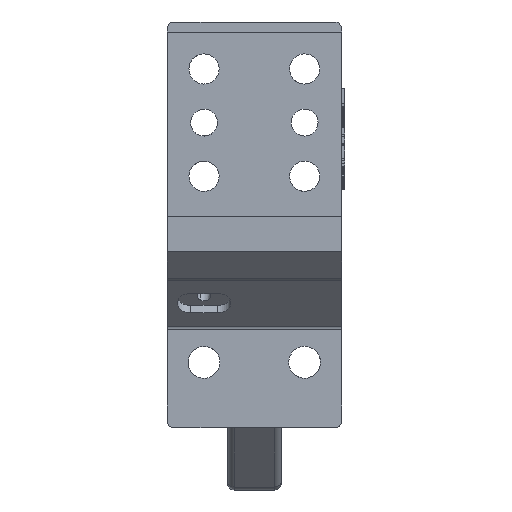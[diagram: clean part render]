
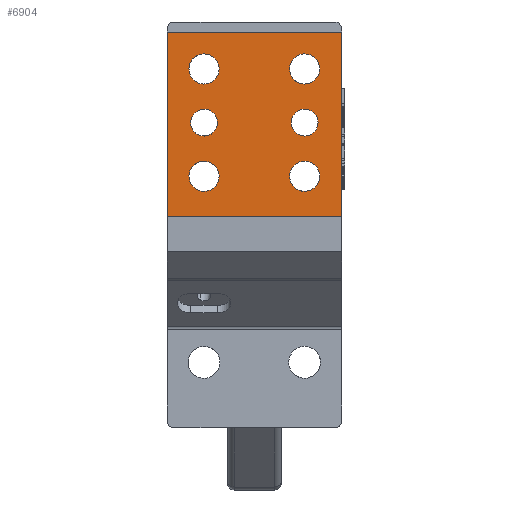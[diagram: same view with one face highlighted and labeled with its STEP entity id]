
A CAD part, left-side view. The second image highlights one B-rep face of the part: STEP entity #6904.
In plain terms, the highlighted planar face has unit normal (-1, 0, 0).
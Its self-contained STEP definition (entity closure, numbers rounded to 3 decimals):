
#225=CARTESIAN_POINT('Vertex',(-41.94,-26.,98.5)) ;
#228=CARTESIAN_POINT('Line Origine',(-41.94,-26.,71.)) ;
#232=CARTESIAN_POINT('Vertex',(-41.94,-26.,43.5)) ;
#6758=CARTESIAN_POINT('Vertex',(-41.94,26.,98.5)) ;
#6761=CARTESIAN_POINT('Line Origine',(-41.94,0.,98.5)) ;
#6773=CARTESIAN_POINT('Axis2P3D Location',(-41.94,0.,43.5)) ;
#6778=CARTESIAN_POINT('Line Origine',(-41.94,26.,71.)) ;
#6782=CARTESIAN_POINT('Vertex',(-41.94,26.,43.5)) ;
#6785=CARTESIAN_POINT('Line Origine',(-41.94,0.,43.5)) ;
#6796=CARTESIAN_POINT('Axis2P3D Location',(-41.94,-15.,55.5)) ;
#6800=CARTESIAN_POINT('Vertex',(-41.94,-18.949,57.657)) ;
#6802=CARTESIAN_POINT('Vertex',(-41.94,-11.051,53.343)) ;
#6805=CARTESIAN_POINT('Axis2P3D Location',(-41.94,-15.,55.5)) ;
#6814=CARTESIAN_POINT('Axis2P3D Location',(-41.94,15.,55.5)) ;
#6818=CARTESIAN_POINT('Vertex',(-41.94,18.949,53.343)) ;
#6820=CARTESIAN_POINT('Vertex',(-41.94,11.051,57.657)) ;
#6823=CARTESIAN_POINT('Axis2P3D Location',(-41.94,15.,55.5)) ;
#6832=CARTESIAN_POINT('Axis2P3D Location',(-41.94,-15.,87.5)) ;
#6836=CARTESIAN_POINT('Vertex',(-41.94,-18.949,89.657)) ;
#6838=CARTESIAN_POINT('Vertex',(-41.94,-11.051,85.343)) ;
#6841=CARTESIAN_POINT('Axis2P3D Location',(-41.94,-15.,87.5)) ;
#6850=CARTESIAN_POINT('Axis2P3D Location',(-41.94,15.,87.5)) ;
#6854=CARTESIAN_POINT('Vertex',(-41.94,18.949,85.343)) ;
#6856=CARTESIAN_POINT('Vertex',(-41.94,11.051,89.657)) ;
#6859=CARTESIAN_POINT('Axis2P3D Location',(-41.94,15.,87.5)) ;
#6868=CARTESIAN_POINT('Axis2P3D Location',(-41.94,-15.,71.5)) ;
#6872=CARTESIAN_POINT('Vertex',(-41.94,-18.51,69.582)) ;
#6874=CARTESIAN_POINT('Vertex',(-41.94,-11.49,73.418)) ;
#6877=CARTESIAN_POINT('Axis2P3D Location',(-41.94,-15.,71.5)) ;
#6886=CARTESIAN_POINT('Axis2P3D Location',(-41.94,15.,71.5)) ;
#6890=CARTESIAN_POINT('Vertex',(-41.94,11.49,69.582)) ;
#6892=CARTESIAN_POINT('Vertex',(-41.94,18.51,73.418)) ;
#6895=CARTESIAN_POINT('Axis2P3D Location',(-41.94,15.,71.5)) ;
#229=DIRECTION('Vector Direction',(0.,0.,1.)) ;
#6762=DIRECTION('Vector Direction',(0.,1.,0.)) ;
#6774=DIRECTION('Axis2P3D Direction',(-1.,0.,0.)) ;
#6775=DIRECTION('Axis2P3D XDirection',(0.,0.,1.)) ;
#6779=DIRECTION('Vector Direction',(0.,0.,1.)) ;
#6786=DIRECTION('Vector Direction',(0.,1.,0.)) ;
#6797=DIRECTION('Axis2P3D Direction',(-1.,0.,0.)) ;
#6806=DIRECTION('Axis2P3D Direction',(-1.,0.,0.)) ;
#6815=DIRECTION('Axis2P3D Direction',(-1.,0.,0.)) ;
#6824=DIRECTION('Axis2P3D Direction',(-1.,0.,0.)) ;
#6833=DIRECTION('Axis2P3D Direction',(-1.,0.,0.)) ;
#6842=DIRECTION('Axis2P3D Direction',(-1.,0.,0.)) ;
#6851=DIRECTION('Axis2P3D Direction',(-1.,0.,0.)) ;
#6860=DIRECTION('Axis2P3D Direction',(-1.,0.,0.)) ;
#6869=DIRECTION('Axis2P3D Direction',(-1.,0.,0.)) ;
#6878=DIRECTION('Axis2P3D Direction',(-1.,0.,0.)) ;
#6887=DIRECTION('Axis2P3D Direction',(-1.,0.,0.)) ;
#6896=DIRECTION('Axis2P3D Direction',(-1.,0.,0.)) ;
#6776=AXIS2_PLACEMENT_3D('Plane Axis2P3D',#6773,#6774,#6775) ;
#6798=AXIS2_PLACEMENT_3D('Circle Axis2P3D',#6796,#6797,$) ;
#6807=AXIS2_PLACEMENT_3D('Circle Axis2P3D',#6805,#6806,$) ;
#6816=AXIS2_PLACEMENT_3D('Circle Axis2P3D',#6814,#6815,$) ;
#6825=AXIS2_PLACEMENT_3D('Circle Axis2P3D',#6823,#6824,$) ;
#6834=AXIS2_PLACEMENT_3D('Circle Axis2P3D',#6832,#6833,$) ;
#6843=AXIS2_PLACEMENT_3D('Circle Axis2P3D',#6841,#6842,$) ;
#6852=AXIS2_PLACEMENT_3D('Circle Axis2P3D',#6850,#6851,$) ;
#6861=AXIS2_PLACEMENT_3D('Circle Axis2P3D',#6859,#6860,$) ;
#6870=AXIS2_PLACEMENT_3D('Circle Axis2P3D',#6868,#6869,$) ;
#6879=AXIS2_PLACEMENT_3D('Circle Axis2P3D',#6877,#6878,$) ;
#6888=AXIS2_PLACEMENT_3D('Circle Axis2P3D',#6886,#6887,$) ;
#6897=AXIS2_PLACEMENT_3D('Circle Axis2P3D',#6895,#6896,$) ;
#6791=ORIENTED_EDGE('',*,*,#6784,.T.) ;
#6792=ORIENTED_EDGE('',*,*,#6789,.F.) ;
#6793=ORIENTED_EDGE('',*,*,#234,.F.) ;
#6794=ORIENTED_EDGE('',*,*,#6765,.T.) ;
#6811=ORIENTED_EDGE('',*,*,#6804,.F.) ;
#6812=ORIENTED_EDGE('',*,*,#6809,.F.) ;
#6829=ORIENTED_EDGE('',*,*,#6822,.F.) ;
#6830=ORIENTED_EDGE('',*,*,#6827,.F.) ;
#6847=ORIENTED_EDGE('',*,*,#6840,.F.) ;
#6848=ORIENTED_EDGE('',*,*,#6845,.F.) ;
#6865=ORIENTED_EDGE('',*,*,#6858,.F.) ;
#6866=ORIENTED_EDGE('',*,*,#6863,.F.) ;
#6883=ORIENTED_EDGE('',*,*,#6876,.F.) ;
#6884=ORIENTED_EDGE('',*,*,#6881,.F.) ;
#6901=ORIENTED_EDGE('',*,*,#6894,.F.) ;
#6902=ORIENTED_EDGE('',*,*,#6899,.F.) ;
#6813=FACE_BOUND('',#6810,.T.) ;
#6831=FACE_BOUND('',#6828,.T.) ;
#6849=FACE_BOUND('',#6846,.T.) ;
#6867=FACE_BOUND('',#6864,.T.) ;
#6885=FACE_BOUND('',#6882,.T.) ;
#6903=FACE_BOUND('',#6900,.T.) ;
#230=VECTOR('Line Direction',#229,1.) ;
#6763=VECTOR('Line Direction',#6762,1.) ;
#6780=VECTOR('Line Direction',#6779,1.) ;
#6787=VECTOR('Line Direction',#6786,1.) ;
#6904=ADVANCED_FACE('PartBody',(#6795,#6813,#6831,#6849,#6867,#6885,#6903),#6777,.T.) ;
#6799=CIRCLE('generated circle',#6798,4.5) ;
#6808=CIRCLE('generated circle',#6807,4.5) ;
#6817=CIRCLE('generated circle',#6816,4.5) ;
#6826=CIRCLE('generated circle',#6825,4.5) ;
#6835=CIRCLE('generated circle',#6834,4.5) ;
#6844=CIRCLE('generated circle',#6843,4.5) ;
#6853=CIRCLE('generated circle',#6852,4.5) ;
#6862=CIRCLE('generated circle',#6861,4.5) ;
#6871=CIRCLE('generated circle',#6870,4.) ;
#6880=CIRCLE('generated circle',#6879,4.) ;
#6889=CIRCLE('generated circle',#6888,4.) ;
#6898=CIRCLE('generated circle',#6897,4.) ;
#234=EDGE_CURVE('',#226,#233,#231,.F.) ;
#6765=EDGE_CURVE('',#226,#6759,#6764,.T.) ;
#6784=EDGE_CURVE('',#6759,#6783,#6781,.F.) ;
#6789=EDGE_CURVE('',#233,#6783,#6788,.T.) ;
#6804=EDGE_CURVE('',#6801,#6803,#6799,.T.) ;
#6809=EDGE_CURVE('',#6803,#6801,#6808,.T.) ;
#6822=EDGE_CURVE('',#6819,#6821,#6817,.T.) ;
#6827=EDGE_CURVE('',#6821,#6819,#6826,.T.) ;
#6840=EDGE_CURVE('',#6837,#6839,#6835,.T.) ;
#6845=EDGE_CURVE('',#6839,#6837,#6844,.T.) ;
#6858=EDGE_CURVE('',#6855,#6857,#6853,.T.) ;
#6863=EDGE_CURVE('',#6857,#6855,#6862,.T.) ;
#6876=EDGE_CURVE('',#6873,#6875,#6871,.T.) ;
#6881=EDGE_CURVE('',#6875,#6873,#6880,.T.) ;
#6894=EDGE_CURVE('',#6891,#6893,#6889,.T.) ;
#6899=EDGE_CURVE('',#6893,#6891,#6898,.T.) ;
#6790=EDGE_LOOP('',(#6791,#6792,#6793,#6794)) ;
#6810=EDGE_LOOP('',(#6811,#6812)) ;
#6828=EDGE_LOOP('',(#6829,#6830)) ;
#6846=EDGE_LOOP('',(#6847,#6848)) ;
#6864=EDGE_LOOP('',(#6865,#6866)) ;
#6882=EDGE_LOOP('',(#6883,#6884)) ;
#6900=EDGE_LOOP('',(#6901,#6902)) ;
#6795=FACE_OUTER_BOUND('',#6790,.T.) ;
#231=LINE('Line',#228,#230) ;
#6764=LINE('Line',#6761,#6763) ;
#6781=LINE('Line',#6778,#6780) ;
#6788=LINE('Line',#6785,#6787) ;
#6777=PLANE('',#6776) ;
#226=VERTEX_POINT('',#225) ;
#233=VERTEX_POINT('',#232) ;
#6759=VERTEX_POINT('',#6758) ;
#6783=VERTEX_POINT('',#6782) ;
#6801=VERTEX_POINT('',#6800) ;
#6803=VERTEX_POINT('',#6802) ;
#6819=VERTEX_POINT('',#6818) ;
#6821=VERTEX_POINT('',#6820) ;
#6837=VERTEX_POINT('',#6836) ;
#6839=VERTEX_POINT('',#6838) ;
#6855=VERTEX_POINT('',#6854) ;
#6857=VERTEX_POINT('',#6856) ;
#6873=VERTEX_POINT('',#6872) ;
#6875=VERTEX_POINT('',#6874) ;
#6891=VERTEX_POINT('',#6890) ;
#6893=VERTEX_POINT('',#6892) ;
